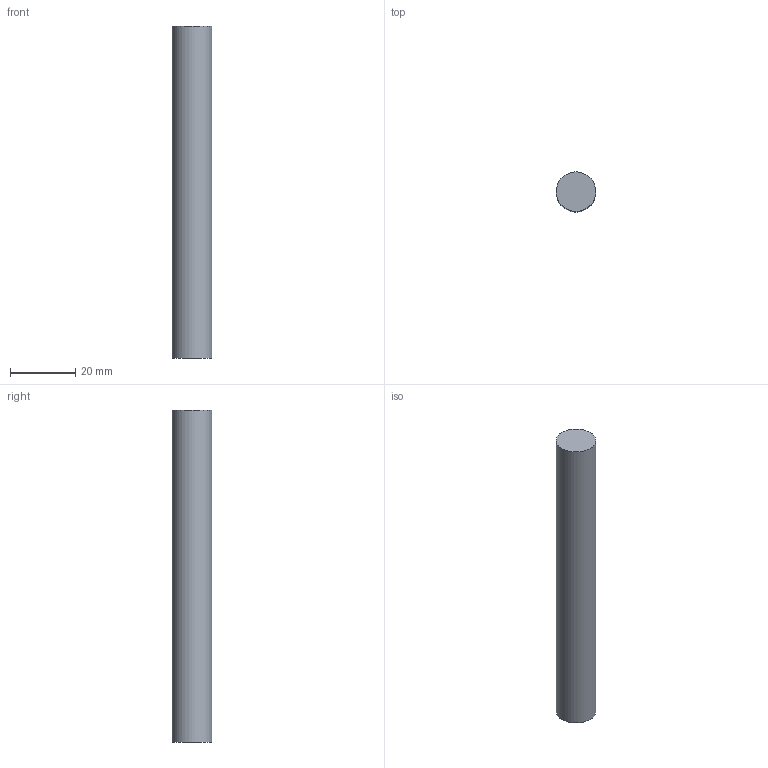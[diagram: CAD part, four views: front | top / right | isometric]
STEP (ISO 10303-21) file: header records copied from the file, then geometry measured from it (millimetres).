
FILE_DESCRIPTION(/* description */ ('STEP AP242 Edition 2','CAx-IF Rec.Pracs.---Representation and Presentation of Product Manufacturing Information (PMI)---4.0---2014-10-13','CAx-IF Rec.Pracs.---3D Tessellated Geometry---0.4---2014-09-14','2;1','CAx-IF Rec.Pracs.---User Defined Attributes---1.5---2016-08-15'),/* implementation_level */ '2;1');
FILE_NAME(/* name */ 'Part Studio 1 - Part 12',/* time_stamp */ '2026-10-19T00:09:51Z',/* author */ (''),/* organization */ (''),/* preprocessor_version */ 'ST-DEVELOPER v20',/* originating_system */ 'ONSHAPE BY PTC INC, 1.222',/* authorisation */ ' ');
FILE_SCHEMA (('AP242_MANAGED_MODEL_BASED_3D_ENGINEERING_MIM_LF { 1 0 10303 442 3 1 4 }'));
Length unit declared in the file: metre
Products named in the file (1): Part 12
Bounding box: 12.2 x 12.2 x 102 mm (x, y, z)
Volume: 11926.1 mm3; surface area: 4143.6 mm2
Topology: 1 solids, 1 shells, 3 faces, 3 edges, 2 vertices
Faces by surface type: plane 2, cylinder 1
Full cylindrical faces by diameter (mm): 12.201 x1
Entity records: 76 total; most frequent: DIRECTION 12, CARTESIAN_POINT 8, AXIS2_PLACEMENT_3D 6, ORIENTED_EDGE 4, EDGE_LOOP 4, FACE_BOUND 4, ADVANCED_FACE 3, PLANE 2
